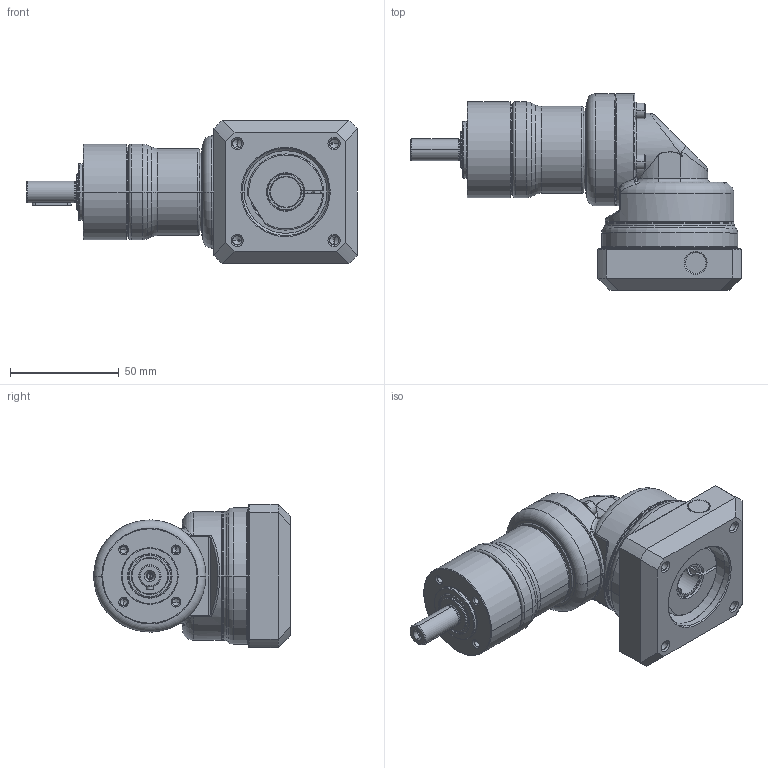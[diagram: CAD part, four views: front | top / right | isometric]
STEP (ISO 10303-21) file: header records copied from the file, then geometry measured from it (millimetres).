
FILE_DESCRIPTION((''),'2;1');
FILE_NAME('PG2R-040_2ST_14-P0411300101_ASM','2016-04-22T',('d01943'),(''),'PRO/ENGINEER BY PARAMETRIC TECHNOLOGY CORPORATION, 2008410','PRO/ENGINEER BY PARAMETRIC TECHNOLOGY CORPORATION, 2008410','');
FILE_SCHEMA(('CONFIG_CONTROL_DESIGN'));
Length unit declared in the file: millimetre
Products named in the file (12): P1325100001; P0251100001; P0350101103; P1349100001; P1017100001; P0713102001; P0503300005; P1350100201; P0411300101; P1702300001; 2111B104015; PG2R-040_2ST_14-P0411300101_ASM
Assembly tree (14 placements, depth 2):
  PG2R-040_2ST_14-P0411300101_ASM
    P1325100001
    P0251100001
    P0350101103
    P1349100001
    P1017100001
    P0713102001
    P0503300005
    P1350100201
    P0411300101
    P1702300001
    2111B104015  x4
Bounding box: 152 x 90.25 x 66 mm (x, y, z)
Volume: 202191.7 mm3; surface area: 80722.9 mm2
Topology: 14 solids, 15 shells, 739 faces, 1618 edges, 933 vertices
Faces by surface type: cylinder 224, cone 212, plane 162, torus 106, bspline 35
Entity records: 23203 total; most frequent: CARTESIAN_POINT 8936, DIRECTION 3177, ORIENTED_EDGE 2748, EDGE_CURVE 1374, AXIS2_PLACEMENT_3D 1345, VERTEX_POINT 813, EDGE_LOOP 723, CIRCLE 714
